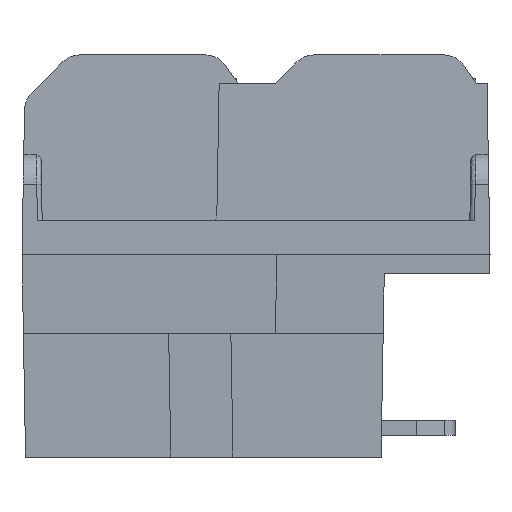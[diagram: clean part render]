
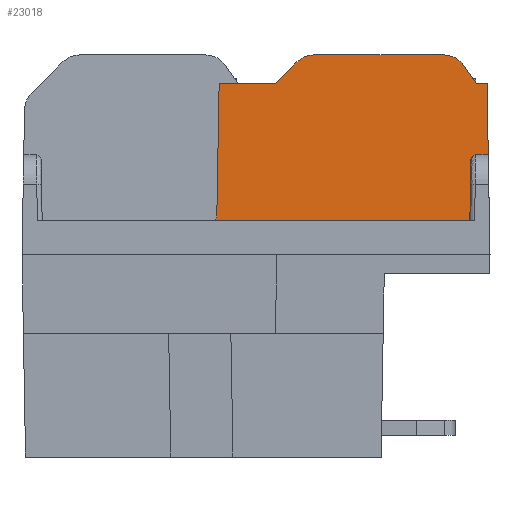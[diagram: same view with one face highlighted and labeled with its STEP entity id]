
A CAD part, left-side view. The second image highlights one B-rep face of the part: STEP entity #23018.
In plain terms, the highlighted planar face has unit normal (-1, 0, 0.018).
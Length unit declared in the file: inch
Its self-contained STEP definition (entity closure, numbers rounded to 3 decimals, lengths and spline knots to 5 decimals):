
#944=ELLIPSE('',#24447,0.01,0.01);
#951=ELLIPSE('',#24460,0.01,0.01);
#952=ELLIPSE('',#24461,0.05001,0.05);
#953=ELLIPSE('',#24462,0.05001,0.05);
#1376=FACE_OUTER_BOUND('',#2647,.T.);
#2647=EDGE_LOOP('',(#16495,#16496,#16497,#16498,#16499,#16500,#16501,#16502,
#16503,#16504,#16505,#16506,#16507,#16508));
#3768=LINE('',#31674,#6592);
#3865=LINE('',#31891,#6689);
#4389=LINE('',#32928,#7213);
#4610=LINE('',#33637,#7434);
#4621=LINE('',#33672,#7445);
#4622=LINE('',#33675,#7446);
#4623=LINE('',#33678,#7447);
#4624=LINE('',#33680,#7448);
#4625=LINE('',#33684,#7449);
#4626=LINE('',#33687,#7450);
#6592=VECTOR('',#25805,0.3937);
#6689=VECTOR('',#25932,0.3937);
#7213=VECTOR('',#26750,0.3937);
#7434=VECTOR('',#27117,0.3937);
#7445=VECTOR('',#27148,0.3937);
#7446=VECTOR('',#27151,0.3937);
#7447=VECTOR('',#27154,0.3937);
#7448=VECTOR('',#27155,0.3937);
#7449=VECTOR('',#27158,0.3937);
#7450=VECTOR('',#27161,0.3937);
#9410=VERTEX_POINT('',#31671);
#9411=VERTEX_POINT('',#31673);
#9503=VERTEX_POINT('',#31889);
#9868=VERTEX_POINT('',#32925);
#9869=VERTEX_POINT('',#32927);
#10041=VERTEX_POINT('',#33630);
#10042=VERTEX_POINT('',#33632);
#10043=VERTEX_POINT('',#33636);
#10058=VERTEX_POINT('',#33674);
#10059=VERTEX_POINT('',#33676);
#10060=VERTEX_POINT('',#33679);
#10061=VERTEX_POINT('',#33681);
#10062=VERTEX_POINT('',#33683);
#10063=VERTEX_POINT('',#33685);
#11636=EDGE_CURVE('',#9410,#9411,#3768,.T.);
#11738=EDGE_CURVE('',#9503,#9410,#3865,.T.);
#12264=EDGE_CURVE('',#9868,#9869,#4389,.T.);
#12521=EDGE_CURVE('',#10041,#10042,#944,.T.);
#12523=EDGE_CURVE('',#10043,#10041,#4610,.T.);
#12542=EDGE_CURVE('',#9868,#10042,#4621,.T.);
#12543=EDGE_CURVE('',#10058,#10043,#4622,.F.);
#12544=EDGE_CURVE('',#10059,#10058,#951,.F.);
#12545=EDGE_CURVE('',#9411,#10059,#4623,.F.);
#12546=EDGE_CURVE('',#10060,#9503,#4624,.T.);
#12547=EDGE_CURVE('',#10061,#10060,#952,.T.);
#12548=EDGE_CURVE('',#10062,#10061,#4625,.T.);
#12549=EDGE_CURVE('',#10063,#10062,#953,.T.);
#12550=EDGE_CURVE('',#9869,#10063,#4626,.T.);
#16495=ORIENTED_EDGE('',*,*,#12542,.T.);
#16496=ORIENTED_EDGE('',*,*,#12521,.F.);
#16497=ORIENTED_EDGE('',*,*,#12523,.F.);
#16498=ORIENTED_EDGE('',*,*,#12543,.F.);
#16499=ORIENTED_EDGE('',*,*,#12544,.F.);
#16500=ORIENTED_EDGE('',*,*,#12545,.F.);
#16501=ORIENTED_EDGE('',*,*,#11636,.F.);
#16502=ORIENTED_EDGE('',*,*,#11738,.F.);
#16503=ORIENTED_EDGE('',*,*,#12546,.F.);
#16504=ORIENTED_EDGE('',*,*,#12547,.F.);
#16505=ORIENTED_EDGE('',*,*,#12548,.F.);
#16506=ORIENTED_EDGE('',*,*,#12549,.F.);
#16507=ORIENTED_EDGE('',*,*,#12550,.F.);
#16508=ORIENTED_EDGE('',*,*,#12264,.F.);
#22035=PLANE('',#24459);
#23018=ADVANCED_FACE('',(#1376),#22035,.F.);
#24447=AXIS2_PLACEMENT_3D('',#33633,#27112,#27113);
#24459=AXIS2_PLACEMENT_3D('',#33673,#27149,#27150);
#24460=AXIS2_PLACEMENT_3D('',#33677,#27152,#27153);
#24461=AXIS2_PLACEMENT_3D('',#33682,#27156,#27157);
#24462=AXIS2_PLACEMENT_3D('',#33686,#27159,#27160);
#25805=DIRECTION('',(-0.017,-0.017,-1.));
#25932=DIRECTION('',(0.,-1.,0.));
#26750=DIRECTION('',(0.,-1.,0.));
#27112=DIRECTION('center_axis',(-1.,0.,0.017));
#27113=DIRECTION('ref_axis',(-0.017,0.,-1.));
#27117=DIRECTION('',(0.,1.,0.));
#27148=DIRECTION('',(-0.017,0.017,-1.));
#27149=DIRECTION('center_axis',(1.,0.,-0.017));
#27150=DIRECTION('ref_axis',(-0.017,0.,-1.));
#27151=DIRECTION('',(0.017,-0.017,1.));
#27152=DIRECTION('center_axis',(1.,0.,-0.017));
#27153=DIRECTION('ref_axis',(0.017,0.,1.));
#27154=DIRECTION('',(0.,-1.,0.));
#27155=DIRECTION('',(-0.014,-0.574,-0.819));
#27156=DIRECTION('center_axis',(1.,0.,-0.017));
#27157=DIRECTION('ref_axis',(0.017,0.,1.));
#27158=DIRECTION('',(0.,-1.,0.));
#27159=DIRECTION('center_axis',(1.,0.,-0.017));
#27160=DIRECTION('ref_axis',(0.017,0.,1.));
#27161=DIRECTION('',(0.012,-0.707,0.707));
#31671=CARTESIAN_POINT('',(0.46647,0.00698,0.4));
#31673=CARTESIAN_POINT('',(0.46386,0.00436,0.25));
#31674=CARTESIAN_POINT('',(0.46172,0.00223,0.12756));
#31889=CARTESIAN_POINT('',(0.46647,0.02896,0.4));
#31891=CARTESIAN_POINT('',(0.46647,0.26288,0.4));
#32925=CARTESIAN_POINT('',(0.46647,0.57,0.4));
#32927=CARTESIAN_POINT('',(0.46647,0.45171,0.4));
#32928=CARTESIAN_POINT('',(0.46647,0.51338,0.4));
#33630=CARTESIAN_POINT('',(0.46145,0.58485,0.112));
#33632=CARTESIAN_POINT('',(0.46162,0.57486,0.12183));
#33633=CARTESIAN_POINT('Origin',(0.46162,0.58485,0.122));
#33636=CARTESIAN_POINT('',(0.46145,0.04305,0.112));
#33637=CARTESIAN_POINT('',(0.46145,0.49465,0.112));
#33672=CARTESIAN_POINT('',(0.46171,0.57476,0.12727));
#33673=CARTESIAN_POINT('Origin',(0.46234,0.49681,0.16345));
#33674=CARTESIAN_POINT('',(0.46368,0.04081,0.24017));
#33675=CARTESIAN_POINT('',(0.46078,0.04371,0.07375));
#33676=CARTESIAN_POINT('',(0.46386,0.03081,0.25));
#33677=CARTESIAN_POINT('Origin',(0.46368,0.03081,0.24));
#33678=CARTESIAN_POINT('',(0.46386,0.25965,0.25));
#33679=CARTESIAN_POINT('',(0.46715,0.05604,0.43868));
#33680=CARTESIAN_POINT('',(0.46734,0.06384,0.44982));
#33681=CARTESIAN_POINT('',(0.46752,0.097,0.46));
#33682=CARTESIAN_POINT('Origin',(0.46665,0.097,0.41));
#33683=CARTESIAN_POINT('',(0.46752,0.371,0.46));
#33684=CARTESIAN_POINT('',(0.46752,0.4339,0.46));
#33685=CARTESIAN_POINT('',(0.46727,0.40636,0.44536));
#33686=CARTESIAN_POINT('Origin',(0.46665,0.371,0.41));
#33687=CARTESIAN_POINT('',(0.46524,0.52215,0.32956));
